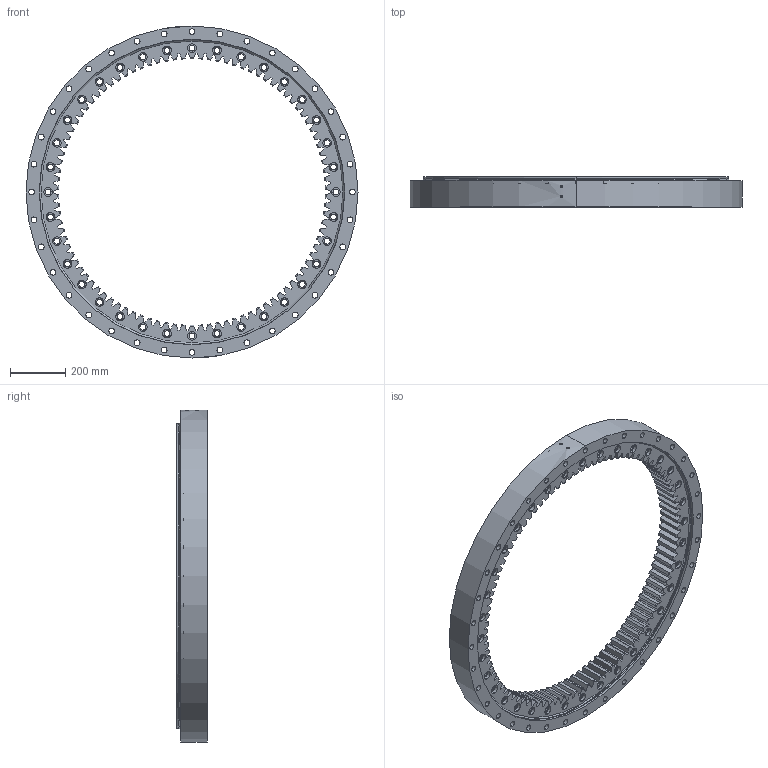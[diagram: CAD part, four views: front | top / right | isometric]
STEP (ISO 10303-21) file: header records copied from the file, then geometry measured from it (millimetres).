
FILE_DESCRIPTION (( 'STEP AP214' ), '1' );
FILE_NAME ('B2225-1-1200BB.STEP', '2022-11-24T07:06:06', ( '' ), ( '' ), 'SwSTEP 2.0', 'SolidWorks 2020', '' );
FILE_SCHEMA (( 'AUTOMOTIVE_DESIGN' ));
Length unit declared in the file: millimetre
Products named in the file (1): B2225-1-1200BB
Bounding box: 1200 x 110 x 1200 mm (x, y, z)
Volume: 32436970.7 mm3; surface area: 3044977.8 mm2
Topology: 4 solids, 4 shells, 1012 faces, 2764 edges, 1841 vertices
Faces by surface type: cylinder 423, cone 206, bspline 196, plane 187
Entity records: 34002 total; most frequent: CARTESIAN_POINT 9078, ORIENTED_EDGE 5528, DIRECTION 4639, EDGE_CURVE 2764, AXIS2_PLACEMENT_3D 1858, VERTEX_POINT 1841, EDGE_LOOP 1253, CIRCLE 1041
